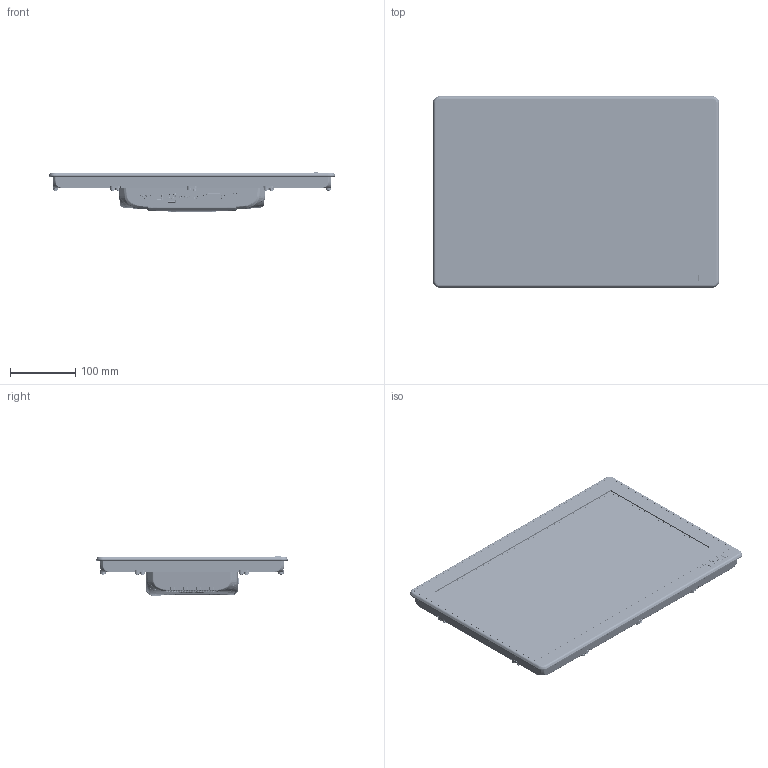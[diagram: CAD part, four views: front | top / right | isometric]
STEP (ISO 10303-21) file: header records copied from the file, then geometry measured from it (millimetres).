
FILE_DESCRIPTION (( 'STEP AP214' ), '1' );
FILE_NAME ('IDD22173.STEP', '2024-05-08T06:30:21', ( '' ), ( '' ), 'SwSTEP 2.0', 'SolidWorks 2018', '' );
FILE_SCHEMA (( 'AUTOMOTIVE_DESIGN' ));
Length unit declared in the file: millimetre
Products named in the file (8): 霧齪2; USB寡湍2; ES204254_菴媼測臏醱啣, 17.3渡; 17.3渡產薛2; IDD22173; 显示器后罩渲染用; 17.3渡珘儒そ2; 嵌入式固定卡扣2
Assembly tree (16 placements, depth 2):
  IDD22173
    17.3渡產薛2
    ES204254_菴媼測臏醱啣, 17.3渡
    USB寡湍2
    霧齪2
    嵌入式固定卡扣2  x10
    17.3渡珘儒そ2
    显示器后罩渲染用
Bounding box: 440 x 294 x 61.6 mm (x, y, z)
Volume: 1688060.2 mm3; surface area: 812024.5 mm2
Topology: 132 solids, 132 shells, 12638 faces, 31683 edges, 19085 vertices
Faces by surface type: plane 4927, cylinder 3952, bspline 1941, torus 1268, sphere 313, cone 237
Full cylindrical faces by diameter (mm): 2 x2, 2.2 x4, 3.2 x14, 3.5 x2, 4 x5, 4.5 x10
Entity records: 404925 total; most frequent: CARTESIAN_POINT 140501, ORIENTED_EDGE 55956, DIRECTION 50864, EDGE_CURVE 27978, AXIS2_PLACEMENT_3D 17742, VERTEX_POINT 17132, VECTOR 15380, LINE 15380
